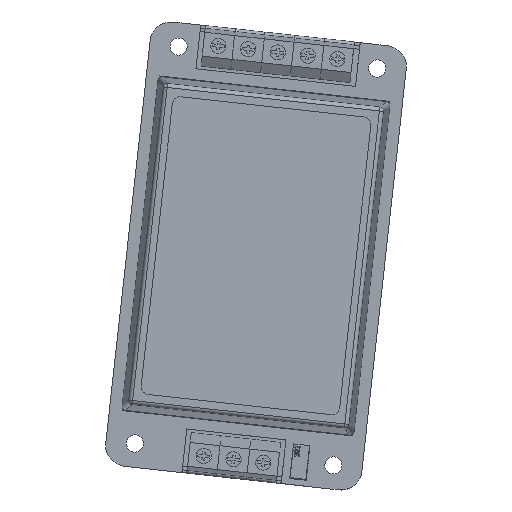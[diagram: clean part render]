
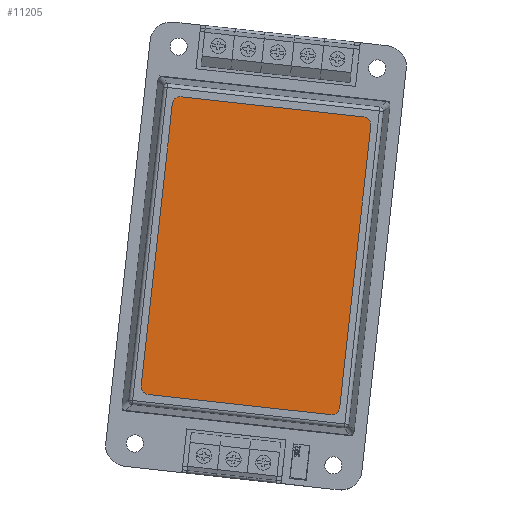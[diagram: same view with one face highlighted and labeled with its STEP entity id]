
A CAD part, top view. The second image highlights one B-rep face of the part: STEP entity #11205.
In plain terms, the highlighted planar face has unit normal (0, 0, 1).
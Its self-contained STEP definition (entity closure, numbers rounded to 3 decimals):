
#965=PLANE($,#11958);
#1970=LINE($,#19251,#3020);
#1973=LINE($,#19259,#3023);
#1976=LINE($,#19267,#3026);
#1979=LINE($,#19274,#3029);
#3020=VECTOR($,#14349,46.);
#3023=VECTOR($,#14358,71.);
#3026=VECTOR($,#14367,46.);
#3029=VECTOR($,#14376,71.);
#3863=FACE_OUTER_BOUND($,#4659,.T.);
#4659=EDGE_LOOP($,(#10307,#10308,#10309,#10310,#10311,#10312,#10313,#10314));
#4903=CIRCLE($,#11948,2.);
#4904=CIRCLE($,#11951,2.);
#4905=CIRCLE($,#11954,2.);
#4906=CIRCLE($,#11957,2.);
#5912=VERTEX_POINT($,#19244);
#5913=VERTEX_POINT($,#19245);
#5914=VERTEX_POINT($,#19250);
#5915=VERTEX_POINT($,#19254);
#5916=VERTEX_POINT($,#19258);
#5917=VERTEX_POINT($,#19262);
#5918=VERTEX_POINT($,#19266);
#5919=VERTEX_POINT($,#19270);
#7393=EDGE_CURVE($,#5912,#5913,#4903,.T.);
#7396=EDGE_CURVE($,#5912,#5914,#1970,.T.);
#7398=EDGE_CURVE($,#5915,#5914,#4904,.T.);
#7400=EDGE_CURVE($,#5915,#5916,#1973,.T.);
#7402=EDGE_CURVE($,#5917,#5916,#4905,.T.);
#7404=EDGE_CURVE($,#5917,#5918,#1976,.T.);
#7406=EDGE_CURVE($,#5919,#5918,#4906,.T.);
#7408=EDGE_CURVE($,#5919,#5913,#1979,.T.);
#10307=ORIENTED_EDGE($,*,*,#7393,.T.);
#10308=ORIENTED_EDGE($,*,*,#7408,.F.);
#10309=ORIENTED_EDGE($,*,*,#7406,.T.);
#10310=ORIENTED_EDGE($,*,*,#7404,.F.);
#10311=ORIENTED_EDGE($,*,*,#7402,.T.);
#10312=ORIENTED_EDGE($,*,*,#7400,.F.);
#10313=ORIENTED_EDGE($,*,*,#7398,.T.);
#10314=ORIENTED_EDGE($,*,*,#7396,.F.);
#11205=ADVANCED_FACE($,(#3863),#965,.T.);
#11948=AXIS2_PLACEMENT_3D($,#19246,#14343,#14344);
#11951=AXIS2_PLACEMENT_3D($,#19255,#14353,#14354);
#11954=AXIS2_PLACEMENT_3D($,#19263,#14362,#14363);
#11957=AXIS2_PLACEMENT_3D($,#19271,#14371,#14372);
#11958=AXIS2_PLACEMENT_3D($,#19273,#14374,#14375);
#14343=DIRECTION('center_axis',(0.,0.,1.));
#14344=DIRECTION('ref_axis',(0.707,0.707,0.));
#14349=DIRECTION($,(0.,-1.,0.));
#14353=DIRECTION('center_axis',(0.,0.,1.));
#14354=DIRECTION('ref_axis',(0.707,-0.707,0.));
#14358=DIRECTION($,(-1.,0.,0.));
#14362=DIRECTION('center_axis',(0.,0.,1.));
#14363=DIRECTION('ref_axis',(-0.707,-0.707,0.));
#14367=DIRECTION($,(0.,1.,0.));
#14371=DIRECTION('center_axis',(0.,0.,1.));
#14372=DIRECTION('ref_axis',(-0.707,0.707,0.));
#14374=DIRECTION('center_axis',(0.,0.,1.));
#14375=DIRECTION('ref_axis',(1.,0.,0.));
#14376=DIRECTION($,(1.,0.,0.));
#19244=CARTESIAN_POINT('',(77.882,50.682,-0.2));
#19245=CARTESIAN_POINT('',(75.882,52.682,-0.2));
#19246=CARTESIAN_POINT('Origin',(75.882,50.682,-0.2));
#19250=CARTESIAN_POINT('',(77.882,4.682,-0.2));
#19251=CARTESIAN_POINT($,(77.882,52.682,-0.2));
#19254=CARTESIAN_POINT('',(75.882,2.682,-0.2));
#19255=CARTESIAN_POINT('Origin',(75.882,4.682,-0.2));
#19258=CARTESIAN_POINT('',(4.882,2.682,-0.2));
#19259=CARTESIAN_POINT($,(77.882,2.682,-0.2));
#19262=CARTESIAN_POINT('',(2.882,4.682,-0.2));
#19263=CARTESIAN_POINT('Origin',(4.882,4.682,-0.2));
#19266=CARTESIAN_POINT('',(2.882,50.682,-0.2));
#19267=CARTESIAN_POINT($,(2.882,2.682,-0.2));
#19270=CARTESIAN_POINT('',(4.882,52.682,-0.2));
#19271=CARTESIAN_POINT('Origin',(4.882,50.682,-0.2));
#19273=CARTESIAN_POINT('Origin',(40.382,27.682,-0.2));
#19274=CARTESIAN_POINT($,(2.882,52.682,-0.2));
